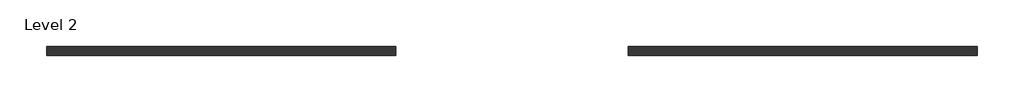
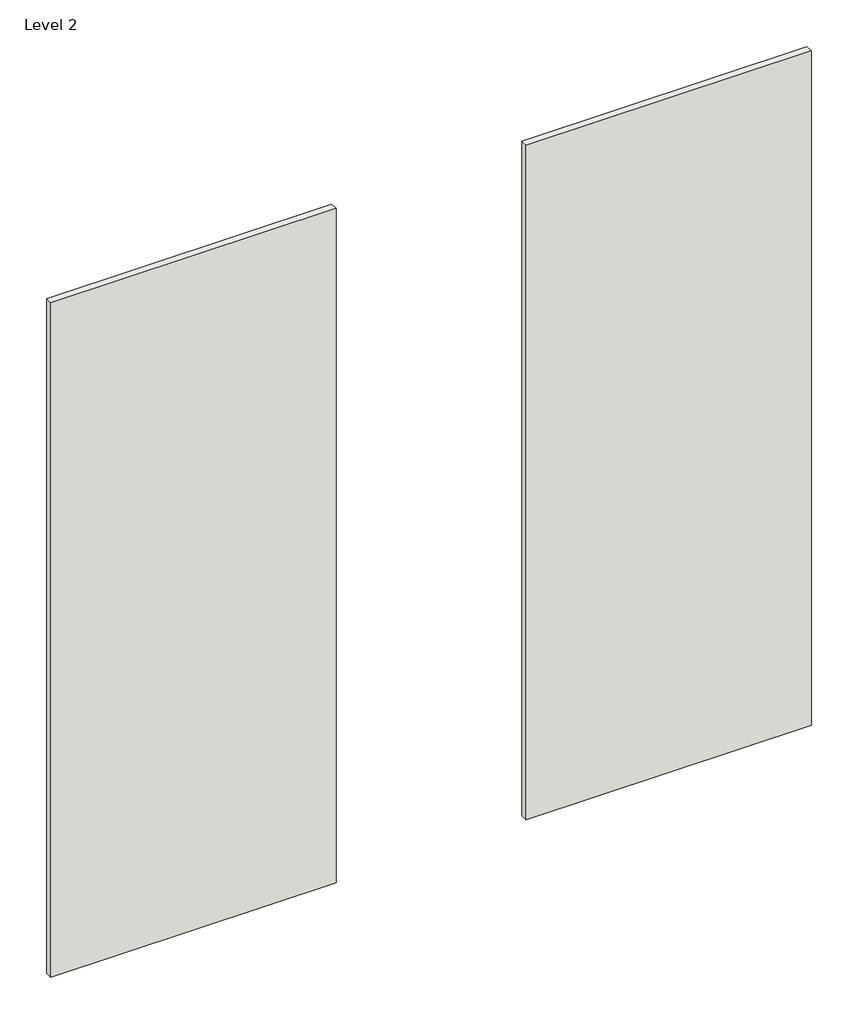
# One storey, incomplete: 2 walls.
"""IFC4 building model written with IfcOpenShell, lengths in millimetres."""

from ifc_helpers import new_model, si_unit, frame, origin, place, context, project, spatial, polyline, outline, extrude, element, save

model = new_model("IFC4")

# Units and contexts
model_context = context("Model", 3, world=origin())
ifc_project = project(units=[si_unit("LENGTHUNIT", "METRE", prefix="MILLI")], contexts=[model_context])

# Site, building, storey
site = spatial("IfcSite", under=ifc_project)
building = spatial("IfcBuilding", under=site)
storey = spatial("IfcBuildingStorey", under=building, Name="Level 2", Elevation=3048.0)

# Walls
placement = place(None, origin())
element("IfcWall", 1, ObjectType="BWS390", at=placement, inside=storey, context=model_context, shape_type="SweptSolid", body=[
    extrude(outline(polyline([(-51059.4432601, 8048.2482026), (-52278.6432601, 8048.2482026), (-52278.6432601, 8079.9982026), (-51059.4432601, 8079.9982026), (-51059.4432601, 8048.2482026)])), frame((0.0, 0.0, 3048.0), z_axis=(0.0, 0.0, 1.0), x_axis=(1.0, 0.0, 0.0)), (0.0, 0.0, 1.0), 3048.0),
])
element("IfcWall", 2, ObjectType="BWS392", at=placement, inside=storey, context=model_context, shape_type="SweptSolid", body=[
    extrude(outline(polyline([(-49027.4432601, 8048.2482026), (-50246.6432601, 8048.2482026), (-50246.6432601, 8079.9982026), (-49027.4432601, 8079.9982026), (-49027.4432601, 8048.2482026)])), frame((0.0, 0.0, 3048.0), z_axis=(0.0, 0.0, 1.0), x_axis=(1.0, 0.0, 0.0)), (0.0, 0.0, 1.0), 3048.0),
])

save(model, "model.ifc")
